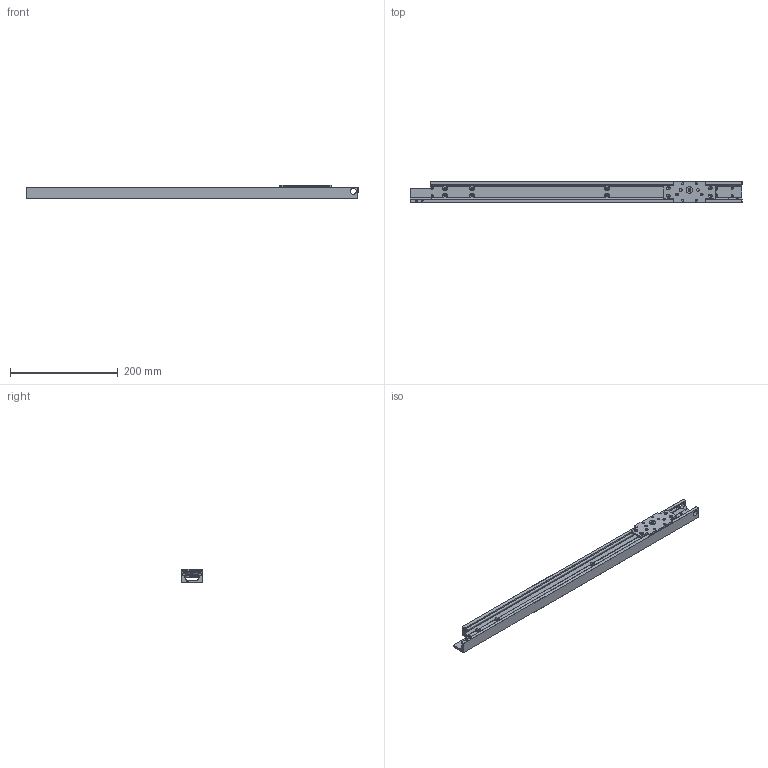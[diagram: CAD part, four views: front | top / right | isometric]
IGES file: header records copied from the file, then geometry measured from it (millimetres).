
Global section: file name:  ; native system: Kubotek KeyCreator; preprocessor: KCM Version 1.1.28; author: KeyCreator•p{ž; organization: Self; date: 20161130.233931; units: millimetre
Bounding box: 615 x 40 x 25.03 mm (x, y, z)
Surface area: 131497.1 mm2 (no closed solid volume)
Topology: 0 solids, 0 shells, 318 faces, 1624 edges, 1499 vertices
Faces by surface type: revolution 183, plane 116, bspline 19
